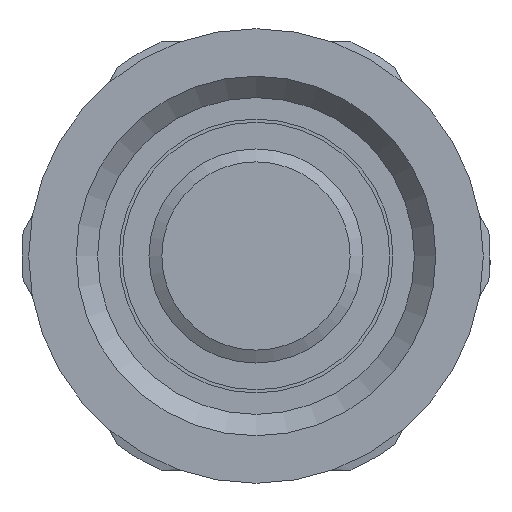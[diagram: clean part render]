
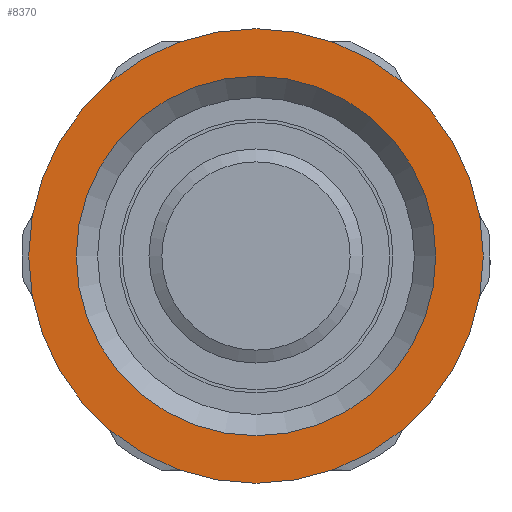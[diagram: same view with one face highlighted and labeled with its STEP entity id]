
A CAD part, left-side view. The second image highlights one B-rep face of the part: STEP entity #8370.
In plain terms, the highlighted planar face has unit normal (-1, 0, 0).
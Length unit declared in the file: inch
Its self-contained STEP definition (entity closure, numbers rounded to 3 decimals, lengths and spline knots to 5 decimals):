
#8336=CARTESIAN_POINT('',(-2.61091,-0.531,0.0));
#8337=VERTEX_POINT('',#8336);
#8338=CARTESIAN_POINT('',(-2.61091,0.,0.0));
#8339=DIRECTION('',(-1.0,0.0,0.0));
#8340=DIRECTION('',(0.0,-1.0,0.0));
#8341=AXIS2_PLACEMENT_3D('',#8338,#8339,#8340);
#8342=CIRCLE('',#8341,0.531);
#8343=EDGE_CURVE('',#8337,#8337,#8342,.T.);
#8351=CARTESIAN_POINT('',(-2.61091,-0.4755,0.0));
#8352=DIRECTION('',(-1.0,0.0,0.0));
#8353=DIRECTION('',(0.0,0.0,-1.0));
#8354=AXIS2_PLACEMENT_3D('',#8351,#8352,#8353);
#8355=PLANE('',#8354);
#8356=ORIENTED_EDGE('',*,*,#8343,.T.);
#8357=EDGE_LOOP('',(#8356));
#8358=FACE_OUTER_BOUND('',#8357,.T.);
#8359=CARTESIAN_POINT('',(-2.61091,-0.42,0.0));
#8360=VERTEX_POINT('',#8359);
#8361=CARTESIAN_POINT('',(-2.61091,0.,0.0));
#8362=DIRECTION('',(-1.0,0.0,0.0));
#8363=DIRECTION('',(0.0,-1.0,0.0));
#8364=AXIS2_PLACEMENT_3D('',#8361,#8362,#8363);
#8365=CIRCLE('',#8364,0.42);
#8366=EDGE_CURVE('',#8360,#8360,#8365,.T.);
#8367=ORIENTED_EDGE('',*,*,#8366,.F.);
#8368=EDGE_LOOP('',(#8367));
#8369=FACE_BOUND('',#8368,.T.);
#8370=ADVANCED_FACE('',(#8358,#8369),#8355,.T.);
